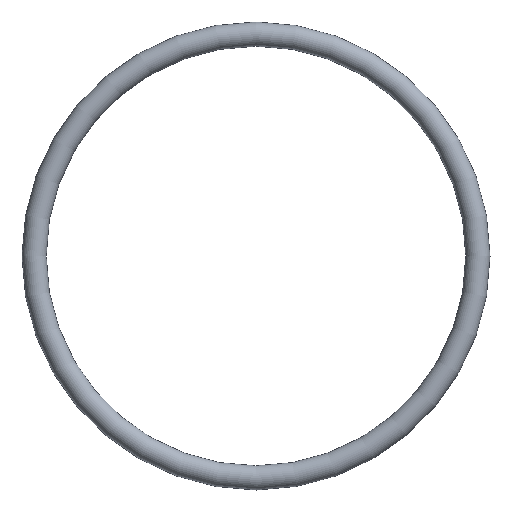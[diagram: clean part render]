
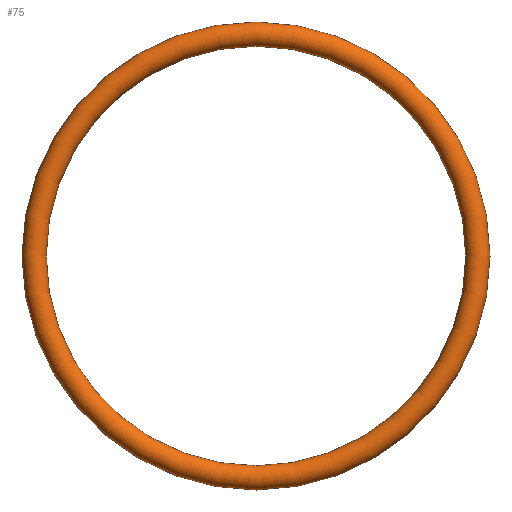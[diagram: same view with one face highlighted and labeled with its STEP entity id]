
A CAD part, front view. The second image highlights one B-rep face of the part: STEP entity #75.
In plain terms, the highlighted toroidal (fillet/blend) face has major radius 27.5 mm and minor radius 1.5 mm.
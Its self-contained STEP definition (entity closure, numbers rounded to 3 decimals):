
#75 = ADVANCED_FACE( '', ( #77 ), #78, .T. );
#77 = FACE_BOUND( '', #79, .T. );
#78 = TOROIDAL_SURFACE( '', #80, 27.5, 1.5 );
#79 = VERTEX_LOOP( '', #81 );
#80 = AXIS2_PLACEMENT_3D( '', #82, #83, #84 );
#81 = VERTEX_POINT( '', #85 );
#82 = CARTESIAN_POINT( '', ( 0., 0., 0. ) );
#83 = DIRECTION( '', ( 0., -1., 0. ) );
#84 = DIRECTION( '', ( 0., 0., -1. ) );
#85 = CARTESIAN_POINT( '', ( 0., 0., -29. ) );
